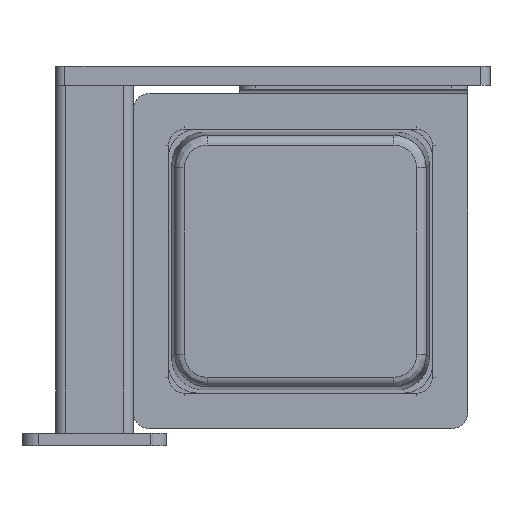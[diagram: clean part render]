
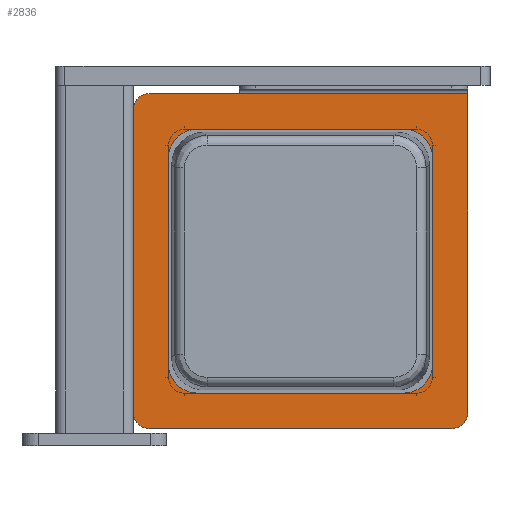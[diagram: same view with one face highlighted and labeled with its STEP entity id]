
A CAD part, front view. The second image highlights one B-rep face of the part: STEP entity #2836.
In plain terms, the highlighted planar face has unit normal (0, -1, 0).
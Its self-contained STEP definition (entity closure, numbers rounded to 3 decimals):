
#99=FACE_BOUND('',#380,.T.);
#204=FACE_OUTER_BOUND('',#379,.T.);
#379=EDGE_LOOP('',(#1927,#1928,#1929,#1930,#1931,#1932,#1933,#1934,#1935,
#1936,#1937,#1938,#1939,#1940));
#380=EDGE_LOOP('',(#1941,#1942,#1943,#1944,#1945,#1946,#1947,#1948));
#569=LINE('',#4242,#801);
#570=LINE('',#4244,#802);
#571=LINE('',#4248,#803);
#572=LINE('',#4252,#804);
#573=LINE('',#4254,#805);
#574=LINE('',#4258,#806);
#575=LINE('',#4262,#807);
#576=LINE('',#4264,#808);
#577=LINE('',#4265,#809);
#578=LINE('',#4268,#810);
#579=LINE('',#4272,#811);
#580=LINE('',#4276,#812);
#581=LINE('',#4280,#813);
#801=VECTOR('',#3388,14.);
#802=VECTOR('',#3389,4.);
#803=VECTOR('',#3392,49.);
#804=VECTOR('',#3395,4.);
#805=VECTOR('',#3396,21.);
#806=VECTOR('',#3399,94.);
#807=VECTOR('',#3402,99.);
#808=VECTOR('',#3403,71.);
#809=VECTOR('',#3404,28.);
#810=VECTOR('',#3405,64.);
#811=VECTOR('',#3408,64.);
#812=VECTOR('',#3411,64.);
#813=VECTOR('',#3414,64.);
#1025=CIRCLE('',#3038,5.);
#1026=CIRCLE('',#3039,5.);
#1027=CIRCLE('',#3040,5.);
#1028=CIRCLE('',#3041,5.);
#1029=CIRCLE('',#3042,5.);
#1030=CIRCLE('',#3043,9.);
#1031=CIRCLE('',#3044,9.);
#1032=CIRCLE('',#3045,9.);
#1033=CIRCLE('',#3046,9.);
#1181=VERTEX_POINT('',#4238);
#1182=VERTEX_POINT('',#4239);
#1183=VERTEX_POINT('',#4241);
#1184=VERTEX_POINT('',#4243);
#1185=VERTEX_POINT('',#4245);
#1186=VERTEX_POINT('',#4247);
#1187=VERTEX_POINT('',#4249);
#1188=VERTEX_POINT('',#4251);
#1189=VERTEX_POINT('',#4253);
#1190=VERTEX_POINT('',#4255);
#1191=VERTEX_POINT('',#4257);
#1192=VERTEX_POINT('',#4259);
#1193=VERTEX_POINT('',#4261);
#1194=VERTEX_POINT('',#4263);
#1195=VERTEX_POINT('',#4266);
#1196=VERTEX_POINT('',#4267);
#1197=VERTEX_POINT('',#4269);
#1198=VERTEX_POINT('',#4271);
#1199=VERTEX_POINT('',#4273);
#1200=VERTEX_POINT('',#4275);
#1201=VERTEX_POINT('',#4277);
#1202=VERTEX_POINT('',#4279);
#1465=EDGE_CURVE('',#1181,#1182,#1025,.T.);
#1466=EDGE_CURVE('',#1183,#1182,#569,.T.);
#1467=EDGE_CURVE('',#1184,#1183,#570,.T.);
#1468=EDGE_CURVE('',#1184,#1185,#1026,.T.);
#1469=EDGE_CURVE('',#1186,#1185,#571,.T.);
#1470=EDGE_CURVE('',#1186,#1187,#1027,.T.);
#1471=EDGE_CURVE('',#1188,#1187,#572,.T.);
#1472=EDGE_CURVE('',#1189,#1188,#573,.T.);
#1473=EDGE_CURVE('',#1189,#1190,#1028,.T.);
#1474=EDGE_CURVE('',#1191,#1190,#574,.T.);
#1475=EDGE_CURVE('',#1191,#1192,#1029,.T.);
#1476=EDGE_CURVE('',#1193,#1192,#575,.T.);
#1477=EDGE_CURVE('',#1194,#1193,#576,.T.);
#1478=EDGE_CURVE('',#1181,#1194,#577,.T.);
#1479=EDGE_CURVE('',#1195,#1196,#578,.T.);
#1480=EDGE_CURVE('',#1196,#1197,#1030,.T.);
#1481=EDGE_CURVE('',#1197,#1198,#579,.T.);
#1482=EDGE_CURVE('',#1198,#1199,#1031,.T.);
#1483=EDGE_CURVE('',#1199,#1200,#580,.T.);
#1484=EDGE_CURVE('',#1200,#1201,#1032,.T.);
#1485=EDGE_CURVE('',#1201,#1202,#581,.T.);
#1486=EDGE_CURVE('',#1202,#1195,#1033,.T.);
#1927=ORIENTED_EDGE('',*,*,#1465,.T.);
#1928=ORIENTED_EDGE('',*,*,#1466,.F.);
#1929=ORIENTED_EDGE('',*,*,#1467,.F.);
#1930=ORIENTED_EDGE('',*,*,#1468,.T.);
#1931=ORIENTED_EDGE('',*,*,#1469,.F.);
#1932=ORIENTED_EDGE('',*,*,#1470,.T.);
#1933=ORIENTED_EDGE('',*,*,#1471,.F.);
#1934=ORIENTED_EDGE('',*,*,#1472,.F.);
#1935=ORIENTED_EDGE('',*,*,#1473,.T.);
#1936=ORIENTED_EDGE('',*,*,#1474,.F.);
#1937=ORIENTED_EDGE('',*,*,#1475,.T.);
#1938=ORIENTED_EDGE('',*,*,#1476,.F.);
#1939=ORIENTED_EDGE('',*,*,#1477,.F.);
#1940=ORIENTED_EDGE('',*,*,#1478,.F.);
#1941=ORIENTED_EDGE('',*,*,#1479,.T.);
#1942=ORIENTED_EDGE('',*,*,#1480,.T.);
#1943=ORIENTED_EDGE('',*,*,#1481,.T.);
#1944=ORIENTED_EDGE('',*,*,#1482,.T.);
#1945=ORIENTED_EDGE('',*,*,#1483,.T.);
#1946=ORIENTED_EDGE('',*,*,#1484,.T.);
#1947=ORIENTED_EDGE('',*,*,#1485,.T.);
#1948=ORIENTED_EDGE('',*,*,#1486,.T.);
#2761=PLANE('',#3037);
#2836=ADVANCED_FACE('',(#204,#99),#2761,.F.);
#3037=AXIS2_PLACEMENT_3D('',#4237,#3384,#3385);
#3038=AXIS2_PLACEMENT_3D('',#4240,#3386,#3387);
#3039=AXIS2_PLACEMENT_3D('',#4246,#3390,#3391);
#3040=AXIS2_PLACEMENT_3D('',#4250,#3393,#3394);
#3041=AXIS2_PLACEMENT_3D('',#4256,#3397,#3398);
#3042=AXIS2_PLACEMENT_3D('',#4260,#3400,#3401);
#3043=AXIS2_PLACEMENT_3D('',#4270,#3406,#3407);
#3044=AXIS2_PLACEMENT_3D('',#4274,#3409,#3410);
#3045=AXIS2_PLACEMENT_3D('',#4278,#3412,#3413);
#3046=AXIS2_PLACEMENT_3D('',#4281,#3415,#3416);
#3384=DIRECTION('center_axis',(0.,1.,0.));
#3385=DIRECTION('ref_axis',(-1.,0.,0.));
#3386=DIRECTION('center_axis',(0.,-1.,0.));
#3387=DIRECTION('ref_axis',(0.,0.,1.));
#3388=DIRECTION('',(0.,0.,1.));
#3389=DIRECTION('',(1.,0.,0.));
#3390=DIRECTION('center_axis',(0.,-1.,0.));
#3391=DIRECTION('ref_axis',(0.,0.,1.));
#3392=DIRECTION('',(0.,0.,1.));
#3393=DIRECTION('center_axis',(0.,-1.,0.));
#3394=DIRECTION('ref_axis',(-1.,0.,0.));
#3395=DIRECTION('',(-1.,0.,0.));
#3396=DIRECTION('',(0.,0.,1.));
#3397=DIRECTION('center_axis',(0.,-1.,0.));
#3398=DIRECTION('ref_axis',(-1.,0.,0.));
#3399=DIRECTION('',(-1.,0.,0.));
#3400=DIRECTION('center_axis',(0.,-1.,0.));
#3401=DIRECTION('ref_axis',(0.,0.,-1.));
#3402=DIRECTION('',(0.,0.,-1.));
#3403=DIRECTION('',(1.,0.,0.));
#3404=DIRECTION('',(1.,0.,0.));
#3405=DIRECTION('',(-1.,0.,0.));
#3406=DIRECTION('center_axis',(0.,1.,0.));
#3407=DIRECTION('ref_axis',(0.,0.,-1.));
#3408=DIRECTION('',(0.,0.,1.));
#3409=DIRECTION('center_axis',(0.,1.,0.));
#3410=DIRECTION('ref_axis',(-1.,0.,0.));
#3411=DIRECTION('',(1.,0.,0.));
#3412=DIRECTION('center_axis',(0.,1.,0.));
#3413=DIRECTION('ref_axis',(0.,0.,1.));
#3414=DIRECTION('',(0.,0.,-1.));
#3415=DIRECTION('center_axis',(0.,1.,0.));
#3416=DIRECTION('ref_axis',(1.,0.,0.));
#4237=CARTESIAN_POINT('Origin',(59.5,123.4,-6.52));
#4238=CARTESIAN_POINT('',(17.,123.4,-8.6));
#4239=CARTESIAN_POINT('',(12.,123.4,-13.6));
#4240=CARTESIAN_POINT('Origin',(17.,123.4,-13.6));
#4241=CARTESIAN_POINT('',(12.,123.4,-27.6));
#4242=CARTESIAN_POINT('',(12.,123.4,-27.6));
#4243=CARTESIAN_POINT('',(8.,123.4,-27.6));
#4244=CARTESIAN_POINT('',(8.,123.4,-27.6));
#4245=CARTESIAN_POINT('',(3.,123.4,-32.6));
#4246=CARTESIAN_POINT('Origin',(8.,123.4,-32.6));
#4247=CARTESIAN_POINT('',(3.,123.4,-81.6));
#4248=CARTESIAN_POINT('',(3.,123.4,-81.6));
#4249=CARTESIAN_POINT('',(8.,123.4,-86.6));
#4250=CARTESIAN_POINT('Origin',(8.,123.4,-81.6));
#4251=CARTESIAN_POINT('',(12.,123.4,-86.6));
#4252=CARTESIAN_POINT('',(12.,123.4,-86.6));
#4253=CARTESIAN_POINT('',(12.,123.4,-107.6));
#4254=CARTESIAN_POINT('',(12.,123.4,-107.6));
#4255=CARTESIAN_POINT('',(17.,123.4,-112.6));
#4256=CARTESIAN_POINT('Origin',(17.,123.4,-107.6));
#4257=CARTESIAN_POINT('',(111.,123.4,-112.6));
#4258=CARTESIAN_POINT('',(111.,123.4,-112.6));
#4259=CARTESIAN_POINT('',(116.,123.4,-107.6));
#4260=CARTESIAN_POINT('Origin',(111.,123.4,-107.6));
#4261=CARTESIAN_POINT('',(116.,123.4,-8.6));
#4262=CARTESIAN_POINT('',(116.,123.4,-8.6));
#4263=CARTESIAN_POINT('',(45.,123.4,-8.6));
#4264=CARTESIAN_POINT('',(45.,123.4,-8.6));
#4265=CARTESIAN_POINT('',(17.,123.4,-8.6));
#4266=CARTESIAN_POINT('',(96.,123.4,-101.6));
#4267=CARTESIAN_POINT('',(32.,123.4,-101.6));
#4268=CARTESIAN_POINT('',(96.,123.4,-101.6));
#4269=CARTESIAN_POINT('',(23.,123.4,-92.6));
#4270=CARTESIAN_POINT('Origin',(32.,123.4,-92.6));
#4271=CARTESIAN_POINT('',(23.,123.4,-28.6));
#4272=CARTESIAN_POINT('',(23.,123.4,-92.6));
#4273=CARTESIAN_POINT('',(32.,123.4,-19.6));
#4274=CARTESIAN_POINT('Origin',(32.,123.4,-28.6));
#4275=CARTESIAN_POINT('',(96.,123.4,-19.6));
#4276=CARTESIAN_POINT('',(32.,123.4,-19.6));
#4277=CARTESIAN_POINT('',(105.,123.4,-28.6));
#4278=CARTESIAN_POINT('Origin',(96.,123.4,-28.6));
#4279=CARTESIAN_POINT('',(105.,123.4,-92.6));
#4280=CARTESIAN_POINT('',(105.,123.4,-28.6));
#4281=CARTESIAN_POINT('Origin',(96.,123.4,-92.6));
